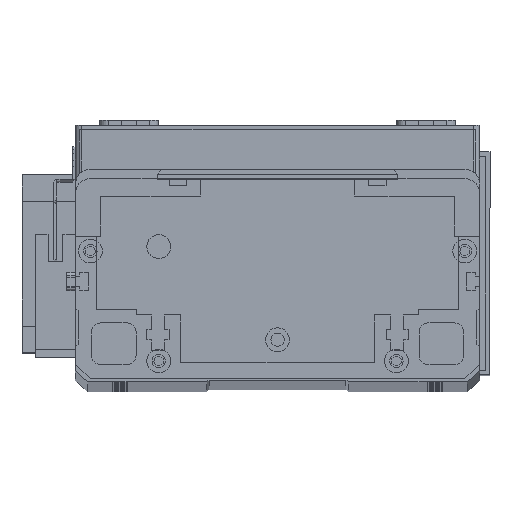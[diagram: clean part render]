
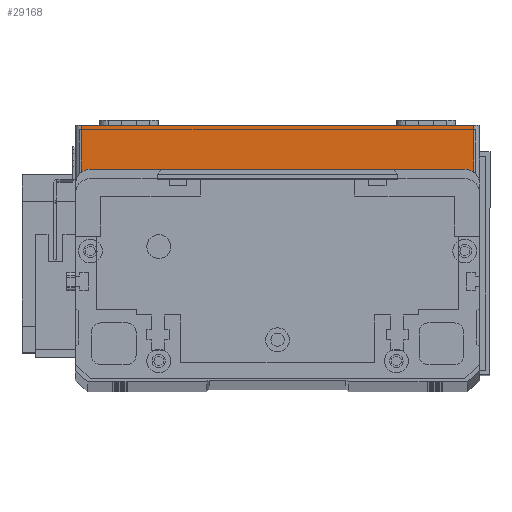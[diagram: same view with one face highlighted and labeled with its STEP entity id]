
A CAD part, top view. The second image highlights one B-rep face of the part: STEP entity #29168.
In plain terms, the highlighted planar face has unit normal (0, 0, 1) as drawn and (0, -1, 0) by its records, which use the part's own axes.
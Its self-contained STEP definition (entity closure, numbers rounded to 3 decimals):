
#84 = EDGE_CURVE ( 'NONE', #25493, #21985, #27928, .T. ) ;
#953 = DIRECTION ( 'NONE',  ( 1., 0., 0. ) ) ;
#3634 = EDGE_CURVE ( 'NONE', #18971, #20121, #16950, .T. ) ;
#4938 = CARTESIAN_POINT ( 'NONE',  ( 2., 0., 19.5 ) ) ;
#5769 = CARTESIAN_POINT ( 'NONE',  ( 0., 0., 0. ) ) ;
#5997 = DIRECTION ( 'NONE',  ( 0., 0., 1. ) ) ;
#8203 = PLANE ( 'NONE',  #16826 ) ;
#8568 = VECTOR ( 'NONE', #22187, 1000. ) ;
#10624 = ORIENTED_EDGE ( 'NONE', *, *, #13727, .T. ) ;
#12611 = CARTESIAN_POINT ( 'NONE',  ( 134., 0., 0. ) ) ;
#12900 = CARTESIAN_POINT ( 'NONE',  ( 0., 0., 19.5 ) ) ;
#13727 = EDGE_CURVE ( 'NONE', #25493, #18971, #13907, .T. ) ;
#13907 = LINE ( 'NONE', #4938, #25454 ) ;
#15510 = LINE ( 'NONE', #24481, #8568 ) ;
#16826 = AXIS2_PLACEMENT_3D ( 'NONE', #12900, #19874, #5997 ) ;
#16950 = LINE ( 'NONE', #5769, #22360 ) ;
#17302 = EDGE_CURVE ( 'NONE', #20121, #21985, #15510, .T. ) ;
#17981 = CARTESIAN_POINT ( 'NONE',  ( 2., 0., 19.5 ) ) ;
#18971 = VERTEX_POINT ( 'NONE', #29239 ) ;
#19874 = DIRECTION ( 'NONE',  ( 0., 1., 0. ) ) ;
#20121 = VERTEX_POINT ( 'NONE', #12611 ) ;
#20231 = FACE_OUTER_BOUND ( 'NONE', #20402, .T. ) ;
#20402 = EDGE_LOOP ( 'NONE', ( #21481, #10624, #28076, #21984 ) ) ;
#21170 = DIRECTION ( 'NONE',  ( 0., 0., -1. ) ) ;
#21481 = ORIENTED_EDGE ( 'NONE', *, *, #84, .F. ) ;
#21816 = VECTOR ( 'NONE', #953, 1000. ) ;
#21984 = ORIENTED_EDGE ( 'NONE', *, *, #17302, .T. ) ;
#21985 = VERTEX_POINT ( 'NONE', #29528 ) ;
#22187 = DIRECTION ( 'NONE',  ( 0., 0., 1. ) ) ;
#22360 = VECTOR ( 'NONE', #24177, 1000. ) ;
#23727 = CARTESIAN_POINT ( 'NONE',  ( 0., 0., 19.5 ) ) ;
#24177 = DIRECTION ( 'NONE',  ( 1., 0., 0. ) ) ;
#24481 = CARTESIAN_POINT ( 'NONE',  ( 134., 0., 19.5 ) ) ;
#25454 = VECTOR ( 'NONE', #21170, 1000. ) ;
#25493 = VERTEX_POINT ( 'NONE', #17981 ) ;
#27928 = LINE ( 'NONE', #23727, #21816 ) ;
#28076 = ORIENTED_EDGE ( 'NONE', *, *, #3634, .T. ) ;
#29168 = ADVANCED_FACE ( 'NONE', ( #20231 ), #8203, .F. ) ;
#29239 = CARTESIAN_POINT ( 'NONE',  ( 2., 0., 0. ) ) ;
#29528 = CARTESIAN_POINT ( 'NONE',  ( 134., 0., 19.5 ) ) ;
